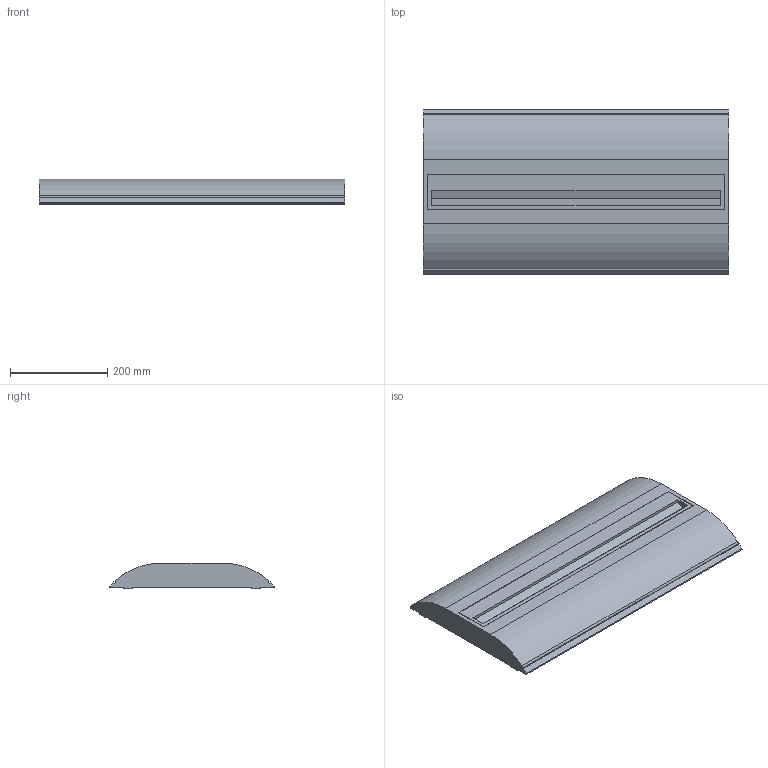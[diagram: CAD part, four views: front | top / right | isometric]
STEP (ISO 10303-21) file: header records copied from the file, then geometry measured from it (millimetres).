
FILE_DESCRIPTION(/* description */ ('Unknown'),/* implementation_level */ '2;1');
FILE_NAME(/* name */ '3D_Footsie1',/* time_stamp */ '2024-01-11T11:37:14+01:00',/* author */ ('Unknown'),/* organization */ ('Unknown'),/* preprocessor_version */ 'ST-DEVELOPER v18.104',/* originating_system */ 'Solid Edge',/* authorisation */ 'Unknown');
FILE_SCHEMA (('AUTOMOTIVE_DESIGN {1 0 10303 214 3 1 1}'));
Length unit declared in the file: millimetre
Products named in the file (1): 3D_Footsie1
Bounding box: 629 x 338.56 x 52 mm (x, y, z)
Volume: 8485791.7 mm3; surface area: 541188 mm2
Topology: 1 solids, 1 shells, 50 faces, 135 edges, 90 vertices
Faces by surface type: plane 36, cylinder 14
Entity records: 1597 total; most frequent: CARTESIAN_POINT 276, ORIENTED_EDGE 270, DIRECTION 265, EDGE_CURVE 135, LINE 107, VECTOR 107, VERTEX_POINT 90, AXIS2_PLACEMENT_3D 79
